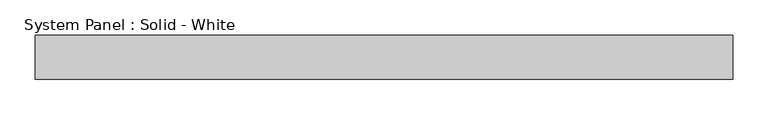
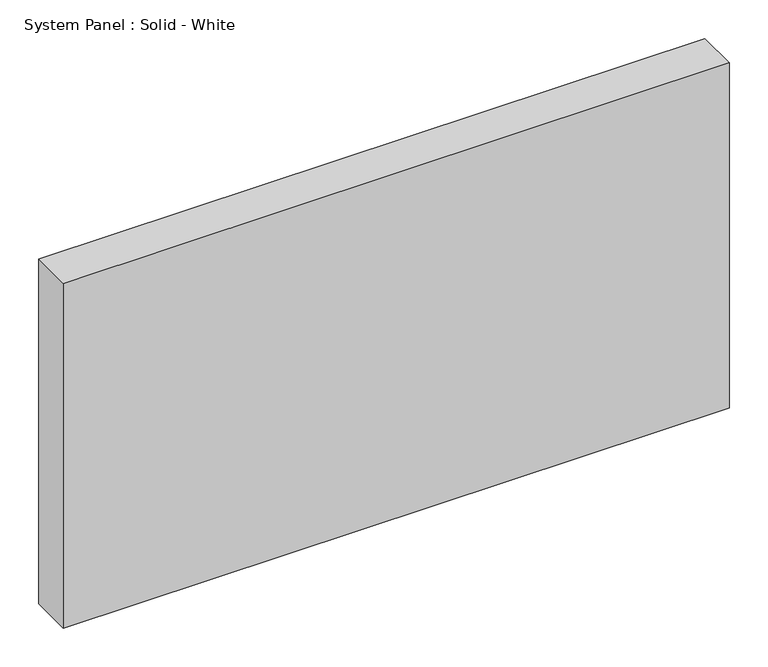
"""IFC4 building model written with IfcOpenShell, lengths in millimetres: plate geometry, System Panel : Solid - White."""

from ifc_helpers import new_model, si_unit, origin, origin_with_axes, place, context, project, spatial, polyline, outline, extrude, source, transform, mapped, element, save


def system_panel_solid_white_5e570f98(model_context):
    return source(origin(), model_context, "Body", "SweptSolid", [
        extrude(outline(polyline([(498.475, -19.05), (-498.475, -19.05), (-498.475, 44.45), (498.475, 44.45), (498.475, -19.05)])), origin_with_axes(), (0.0, 0.0, 1.0), 546.1),
    ])


if __name__ == "__main__":
    model = new_model("IFC4")
    model_context = context("Model", 3, world=origin())
    ifc_project = project(units=[si_unit("LENGTHUNIT", "METRE", prefix="MILLI")], contexts=[model_context])
    site = spatial("IfcSite", under=ifc_project)
    building = spatial("IfcBuilding", under=site)
    placement = place(None, origin())
    system_panel_solid_white_shape = system_panel_solid_white_5e570f98(model_context)
    element("IfcPlate", 1, ObjectType="System Panel : Solid - White", at=placement, inside=building, context=model_context, shape_type="MappedRepresentation", body=[
        mapped(system_panel_solid_white_shape, transform((0.0, 0.0, 0.0), x_axis=(1.0, 0.0, 0.0), y_axis=(0.0, 1.0, 0.0), z_axis=(0.0, 0.0, 1.0))),
    ])
    save(model, "model.ifc")
